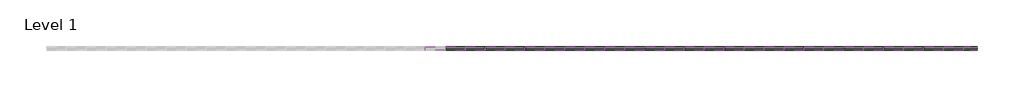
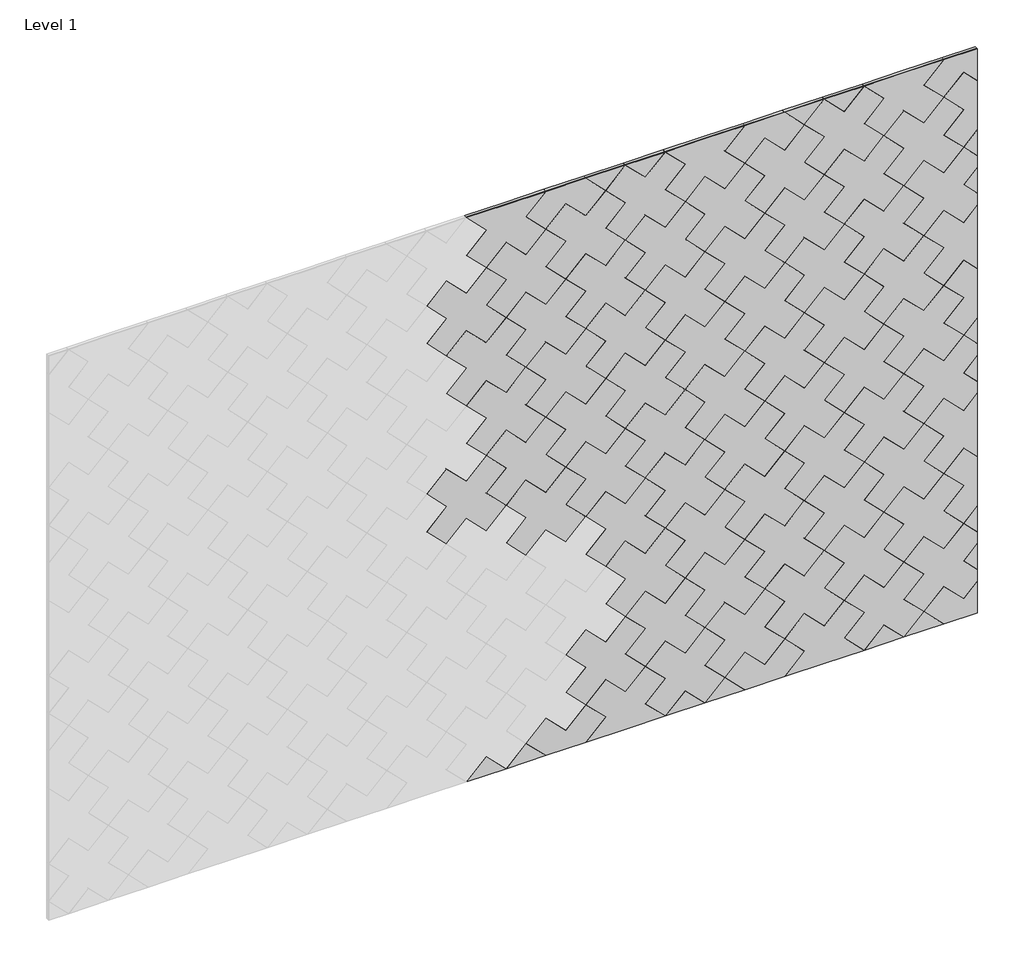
# One storey, part 2 of 2: 84 proxies.
"""IFC4 building model written with IfcOpenShell, lengths in millimetres."""

from ifc_helpers import new_model, si_unit, origin, place, context, project, spatial, transform, mapped, element, save
from components import plus_block_6a39ef65, plus_block_d2276059, plus_block_fb93f7b3, plus_block_9b29f26b, plus_block_1aacb4cb, plus_block_92bfb5da, plus_block_34edbe92, plus_block_94719e22, plus_block_7d1ee7ed, plus_block_b4ba28bf, plus_block_45ecfcac, plus_block_e310b0f0, plus_block_a1df5cec

model = new_model("IFC4")

# Units and contexts
model_context = context("Model", 3, world=origin())
ifc_project = project(units=[si_unit("LENGTHUNIT", "METRE", prefix="MILLI")], contexts=[model_context])

# Site, building, storey
site = spatial("IfcSite", under=ifc_project)
building = spatial("IfcBuilding", under=site)
storey = spatial("IfcBuildingStorey", under=building, Name="Level 1", Elevation=0.0)

# Proxies
placement = place(None, origin())
plus_block_shape = plus_block_6a39ef65(model_context)
element("IfcBuildingElementProxy", 1, Name="FilzFelt_Plus_Block : Plus Block", ObjectType="FilzFelt_Plus_Block : Plus Block", at=placement, inside=storey, context=model_context, shape_type="MappedRepresentation", body=[
    mapped(plus_block_shape, transform((21846.1946745, -17477.9339335, -163.8964022), x_axis=(0.7071067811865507, 0.0, -0.7071067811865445), y_axis=(0.7071067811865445, 0.0, 0.7071067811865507), z_axis=(0.0, -1.0, 0.0))),
])
element("IfcBuildingElementProxy", 2, Name="FilzFelt_Plus_Block : Plus Block", ObjectType="FilzFelt_Plus_Block : Plus Block", at=placement, inside=storey, context=model_context, shape_type="MappedRepresentation", body=[
    mapped(plus_block_shape, transform((21055.4135909, -17477.9339335, 770.6630603), x_axis=(0.7071067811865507, 0.0, -0.7071067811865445), y_axis=(0.7071067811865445, 0.0, 0.7071067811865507), z_axis=(0.0, -1.0, 0.0))),
])
element("IfcBuildingElementProxy", 3, Name="FilzFelt_Plus_Block : Plus Block", ObjectType="FilzFelt_Plus_Block : Plus Block", at=placement, inside=storey, context=model_context, shape_type="MappedRepresentation", body=[
    mapped(plus_block_shape, transform((21342.9703486, -17477.9339335, 626.8846814), x_axis=(0.7071067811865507, 0.0, -0.7071067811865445), y_axis=(0.7071067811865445, 0.0, 0.7071067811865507), z_axis=(0.0, -1.0, 0.0))),
])
element("IfcBuildingElementProxy", 4, Name="FilzFelt_Plus_Block : Plus Block", ObjectType="FilzFelt_Plus_Block : Plus Block", at=placement, inside=storey, context=model_context, shape_type="MappedRepresentation", body=[
    mapped(plus_block_shape, transform((21271.0811591, -17477.9339335, 842.5522497), x_axis=(0.7071067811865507, 0.0, -0.7071067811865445), y_axis=(0.7071067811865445, 0.0, 0.7071067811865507), z_axis=(0.0, -1.0, 0.0))),
])
element("IfcBuildingElementProxy", 5, Name="FilzFelt_Plus_Block : Plus Block", ObjectType="FilzFelt_Plus_Block : Plus Block", at=placement, inside=storey, context=model_context, shape_type="MappedRepresentation", body=[
    mapped(plus_block_shape, transform((21199.1919697, -17477.9339335, 1058.219818), x_axis=(0.7071067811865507, 0.0, -0.7071067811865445), y_axis=(0.7071067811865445, 0.0, 0.7071067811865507), z_axis=(0.0, -1.0, 0.0))),
])
element("IfcBuildingElementProxy", 6, Name="FilzFelt_Plus_Block : Plus Block", ObjectType="FilzFelt_Plus_Block : Plus Block", at=placement, inside=storey, context=model_context, shape_type="MappedRepresentation", body=[
    mapped(plus_block_shape, transform((21486.7487274, -17477.9339335, 914.4414391), x_axis=(0.7071067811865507, 0.0, -0.7071067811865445), y_axis=(0.7071067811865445, 0.0, 0.7071067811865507), z_axis=(0.0, -1.0, 0.0))),
])
element("IfcBuildingElementProxy", 7, Name="FilzFelt_Plus_Block : Plus Block", ObjectType="FilzFelt_Plus_Block : Plus Block", at=placement, inside=storey, context=model_context, shape_type="MappedRepresentation", body=[
    mapped(plus_block_shape, transform((21774.3054851, -17477.9339335, 770.6630603), x_axis=(0.7071067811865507, 0.0, -0.7071067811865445), y_axis=(0.7071067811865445, 0.0, 0.7071067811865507), z_axis=(0.0, -1.0, 0.0))),
])
element("IfcBuildingElementProxy", 8, Name="FilzFelt_Plus_Block : Plus Block", ObjectType="FilzFelt_Plus_Block : Plus Block", at=placement, inside=storey, context=model_context, shape_type="MappedRepresentation", body=[
    mapped(plus_block_shape, transform((22277.529811, -17477.9339335, -20.1180233), x_axis=(0.7071067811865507, 0.0, -0.7071067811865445), y_axis=(0.7071067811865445, 0.0, 0.7071067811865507), z_axis=(0.0, -1.0, 0.0))),
])
element("IfcBuildingElementProxy", 9, Name="FilzFelt_Plus_Block : Plus Block", ObjectType="FilzFelt_Plus_Block : Plus Block", at=placement, inside=storey, context=model_context, shape_type="MappedRepresentation", body=[
    mapped(plus_block_shape, transform((21702.4162957, -17477.9339335, 986.3306285), x_axis=(0.7071067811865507, 0.0, -0.7071067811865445), y_axis=(0.7071067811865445, 0.0, 0.7071067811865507), z_axis=(0.0, -1.0, 0.0))),
])
element("IfcBuildingElementProxy", 10, Name="FilzFelt_Plus_Block : Plus Block", ObjectType="FilzFelt_Plus_Block : Plus Block", at=placement, inside=storey, context=model_context, shape_type="MappedRepresentation", body=[
    mapped(plus_block_shape, transform((21630.5271062, -17477.9339335, 1201.9981968), x_axis=(0.7071067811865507, 0.0, -0.7071067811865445), y_axis=(0.7071067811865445, 0.0, 0.7071067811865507), z_axis=(0.0, -1.0, 0.0))),
])
element("IfcBuildingElementProxy", 11, Name="FilzFelt_Plus_Block : Plus Block", ObjectType="FilzFelt_Plus_Block : Plus Block", at=placement, inside=storey, context=model_context, shape_type="MappedRepresentation", body=[
    mapped(plus_block_shape, transform((21918.0838639, -17477.9339335, 1058.219818), x_axis=(0.7071067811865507, 0.0, -0.7071067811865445), y_axis=(0.7071067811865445, 0.0, 0.7071067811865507), z_axis=(0.0, -1.0, 0.0))),
])
element("IfcBuildingElementProxy", 12, Name="FilzFelt_Plus_Block : Plus Block", ObjectType="FilzFelt_Plus_Block : Plus Block", at=placement, inside=storey, context=model_context, shape_type="MappedRepresentation", body=[
    mapped(plus_block_shape, transform((22061.8622428, -17477.9339335, 1345.7765757), x_axis=(0.7071067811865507, 0.0, -0.7071067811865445), y_axis=(0.7071067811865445, 0.0, 0.7071067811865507), z_axis=(0.0, -1.0, 0.0))),
])
element("IfcBuildingElementProxy", 13, Name="FilzFelt_Plus_Block : Plus Block", ObjectType="FilzFelt_Plus_Block : Plus Block", at=placement, inside=storey, context=model_context, shape_type="MappedRepresentation", body=[
    mapped(plus_block_shape, transform((22133.7514322, -17477.9339335, 1130.1090074), x_axis=(0.7071067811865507, 0.0, -0.7071067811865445), y_axis=(0.7071067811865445, 0.0, 0.7071067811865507), z_axis=(0.0, -1.0, 0.0))),
])
element("IfcBuildingElementProxy", 14, Name="FilzFelt_Plus_Block : Plus Block", ObjectType="FilzFelt_Plus_Block : Plus Block", at=placement, inside=storey, context=model_context, shape_type="MappedRepresentation", body=[
    mapped(plus_block_shape, transform((22205.6406216, -17477.9339335, 914.4414391), x_axis=(0.7071067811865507, 0.0, -0.7071067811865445), y_axis=(0.7071067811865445, 0.0, 0.7071067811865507), z_axis=(0.0, -1.0, 0.0))),
])
element("IfcBuildingElementProxy", 15, Name="FilzFelt_Plus_Block : Plus Block", ObjectType="FilzFelt_Plus_Block : Plus Block", at=placement, inside=storey, context=model_context, shape_type="MappedRepresentation", body=[
    mapped(plus_block_shape, transform((22565.0865687, -17477.9339335, -163.8964022), x_axis=(0.7071067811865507, 0.0, -0.7071067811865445), y_axis=(0.7071067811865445, 0.0, 0.7071067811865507), z_axis=(0.0, -1.0, 0.0))),
])
element("IfcBuildingElementProxy", 16, Name="FilzFelt_Plus_Block : Plus Block", ObjectType="FilzFelt_Plus_Block : Plus Block", at=placement, inside=storey, context=model_context, shape_type="MappedRepresentation", body=[
    mapped(plus_block_shape, transform((22349.4190005, -17477.9339335, 1201.9981968), x_axis=(0.7071067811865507, 0.0, -0.7071067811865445), y_axis=(0.7071067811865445, 0.0, 0.7071067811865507), z_axis=(0.0, -1.0, 0.0))),
])
element("IfcBuildingElementProxy", 17, Name="FilzFelt_Plus_Block : Plus Block", ObjectType="FilzFelt_Plus_Block : Plus Block", at=placement, inside=storey, context=model_context, shape_type="MappedRepresentation", body=[
    mapped(plus_block_shape, transform((22708.8649476, -17477.9339335, 123.6603555), x_axis=(0.7071067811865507, 0.0, -0.7071067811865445), y_axis=(0.7071067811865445, 0.0, 0.7071067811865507), z_axis=(0.0, -1.0, 0.0))),
])
element("IfcBuildingElementProxy", 18, Name="FilzFelt_Plus_Block : Plus Block", ObjectType="FilzFelt_Plus_Block : Plus Block", at=placement, inside=storey, context=model_context, shape_type="MappedRepresentation", body=[
    mapped(plus_block_shape, transform((22636.9757581, -17477.9339335, 1058.219818), x_axis=(0.7071067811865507, 0.0, -0.7071067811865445), y_axis=(0.7071067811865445, 0.0, 0.7071067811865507), z_axis=(0.0, -1.0, 0.0))),
])
element("IfcBuildingElementProxy", 19, Name="FilzFelt_Plus_Block : Plus Block", ObjectType="FilzFelt_Plus_Block : Plus Block", at=placement, inside=storey, context=model_context, shape_type="MappedRepresentation", body=[
    mapped(plus_block_shape, transform((22565.0865687, -17477.9339335, 1273.8873862), x_axis=(0.7071067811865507, 0.0, -0.7071067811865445), y_axis=(0.7071067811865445, 0.0, 0.7071067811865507), z_axis=(0.0, -1.0, 0.0))),
])
element("IfcBuildingElementProxy", 20, Name="FilzFelt_Plus_Block : Plus Block", ObjectType="FilzFelt_Plus_Block : Plus Block", at=placement, inside=storey, context=model_context, shape_type="MappedRepresentation", body=[
    mapped(plus_block_shape, transform((22493.1973793, -17477.9339335, 1489.5549545), x_axis=(0.7071067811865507, 0.0, -0.7071067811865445), y_axis=(0.7071067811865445, 0.0, 0.7071067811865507), z_axis=(0.0, -1.0, 0.0))),
])
plus_block_2_shape = plus_block_d2276059(model_context)
element("IfcBuildingElementProxy", 21, Name="FilzFelt_Plus_Block : Plus Block", ObjectType="FilzFelt_Plus_Block : Plus Block", at=placement, inside=storey, context=model_context, shape_type="MappedRepresentation", body=[
    mapped(plus_block_2_shape, transform((21414.859538, -17477.9339335, -307.674781), x_axis=(0.7071067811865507, 0.0, -0.7071067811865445), y_axis=(0.7071067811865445, 0.0, 0.7071067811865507), z_axis=(0.0, -1.0, 0.0))),
])
element("IfcBuildingElementProxy", 22, Name="FilzFelt_Plus_Block : Plus Block", ObjectType="FilzFelt_Plus_Block : Plus Block", at=placement, inside=storey, context=model_context, shape_type="MappedRepresentation", body=[
    mapped(plus_block_2_shape, transform((22133.7514322, -17477.9339335, -307.674781), x_axis=(0.7071067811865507, 0.0, -0.7071067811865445), y_axis=(0.7071067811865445, 0.0, 0.7071067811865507), z_axis=(0.0, -1.0, 0.0))),
])
plus_block_3_shape = plus_block_fb93f7b3(model_context)
element("IfcBuildingElementProxy", 23, Name="FilzFelt_Plus_Block : Plus Block", ObjectType="FilzFelt_Plus_Block : Plus Block", at=placement, inside=storey, context=model_context, shape_type="MappedRepresentation", body=[
    mapped(plus_block_3_shape, transform((21918.0838639, -17477.9339335, -379.5639704), x_axis=(0.7071067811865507, 0.0, -0.7071067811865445), y_axis=(0.7071067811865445, 0.0, 0.7071067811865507), z_axis=(0.0, -1.0, 0.0))),
])
element("IfcBuildingElementProxy", 24, Name="FilzFelt_Plus_Block : Plus Block", ObjectType="FilzFelt_Plus_Block : Plus Block", at=placement, inside=storey, context=model_context, shape_type="MappedRepresentation", body=[
    mapped(plus_block_3_shape, transform((22636.9757581, -17477.9339335, -379.5639704), x_axis=(0.7071067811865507, 0.0, -0.7071067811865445), y_axis=(0.7071067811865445, 0.0, 0.7071067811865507), z_axis=(0.0, -1.0, 0.0))),
])
plus_block_4_shape = plus_block_9b29f26b(model_context)
element("IfcBuildingElementProxy", 25, Name="FilzFelt_Plus_Block : Plus Block", ObjectType="FilzFelt_Plus_Block : Plus Block", at=placement, inside=storey, context=model_context, shape_type="MappedRepresentation", body=[
    mapped(plus_block_4_shape, transform((22349.4190005, -17477.9339335, -235.7855916), x_axis=(0.7071067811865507, 0.0, -0.7071067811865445), y_axis=(0.7071067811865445, 0.0, 0.7071067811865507), z_axis=(0.0, -1.0, 0.0))),
])
plus_block_5_shape = plus_block_1aacb4cb(model_context)
element("IfcBuildingElementProxy", 26, Name="FilzFelt_Plus_Block : Plus Block", ObjectType="FilzFelt_Plus_Block : Plus Block", at=placement, inside=storey, context=model_context, shape_type="MappedRepresentation", body=[
    mapped(plus_block_5_shape, transform((22780.754137, -17477.9339335, -92.0072128), x_axis=(0.7071067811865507, 0.0, -0.7071067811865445), y_axis=(0.7071067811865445, 0.0, 0.7071067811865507), z_axis=(0.0, -1.0, 0.0))),
])
element("IfcBuildingElementProxy", 27, Name="FilzFelt_Plus_Block : Plus Block", ObjectType="FilzFelt_Plus_Block : Plus Block", at=placement, inside=storey, context=model_context, shape_type="MappedRepresentation", body=[
    mapped(plus_block_5_shape, transform((22780.754137, -17477.9339335, 1345.7765757), x_axis=(0.7071067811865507, 0.0, -0.7071067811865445), y_axis=(0.7071067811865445, 0.0, 0.7071067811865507), z_axis=(0.0, -1.0, 0.0))),
])
plus_block_6_shape = plus_block_92bfb5da(model_context)
element("IfcBuildingElementProxy", 28, Name="FilzFelt_Plus_Block : Plus Block", ObjectType="FilzFelt_Plus_Block : Plus Block", at=placement, inside=storey, context=model_context, shape_type="MappedRepresentation", body=[
    mapped(plus_block_6_shape, transform((22852.6433264, -17477.9339335, -307.674781), x_axis=(0.7071067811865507, 0.0, -0.7071067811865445), y_axis=(0.7071067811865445, 0.0, 0.7071067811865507), z_axis=(0.0, -1.0, 0.0))),
])
plus_block_7_shape = plus_block_34edbe92(model_context)
element("IfcBuildingElementProxy", 29, Name="FilzFelt_Plus_Block : Plus Block", ObjectType="FilzFelt_Plus_Block : Plus Block", at=placement, inside=storey, context=model_context, shape_type="MappedRepresentation", body=[
    mapped(plus_block_7_shape, transform((22996.4217052, -17477.9339335, -20.1180233), x_axis=(0.7071067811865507, 0.0, -0.7071067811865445), y_axis=(0.7071067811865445, 0.0, 0.7071067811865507), z_axis=(0.0, -1.0, 0.0))),
])
element("IfcBuildingElementProxy", 30, Name="FilzFelt_Plus_Block : Plus Block", ObjectType="FilzFelt_Plus_Block : Plus Block", at=placement, inside=storey, context=model_context, shape_type="MappedRepresentation", body=[
    mapped(plus_block_7_shape, transform((22996.4217052, -17477.9339335, 1417.6657651), x_axis=(0.7071067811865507, 0.0, -0.7071067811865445), y_axis=(0.7071067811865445, 0.0, 0.7071067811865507), z_axis=(0.0, -1.0, 0.0))),
])
plus_block_8_shape = plus_block_94719e22(model_context)
element("IfcBuildingElementProxy", 31, Name="FilzFelt_Plus_Block : Plus Block", ObjectType="FilzFelt_Plus_Block : Plus Block", at=placement, inside=storey, context=model_context, shape_type="MappedRepresentation", body=[
    mapped(plus_block_8_shape, transform((22924.5325158, -17477.9339335, 1633.3333333), x_axis=(0.7071067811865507, 0.0, -0.7071067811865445), y_axis=(0.7071067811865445, 0.0, 0.7071067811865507), z_axis=(0.0, -1.0, 0.0))),
])
element("IfcBuildingElementProxy", 32, Name="FilzFelt_Plus_Block : Plus Block", ObjectType="FilzFelt_Plus_Block : Plus Block", at=placement, inside=storey, context=model_context, shape_type="MappedRepresentation", body=[
    mapped(plus_block_shape, transform((21702.4162957, -17477.9339335, 267.4387343), x_axis=(0.7071067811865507, 0.0, -0.7071067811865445), y_axis=(0.7071067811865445, 0.0, 0.7071067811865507), z_axis=(0.0, -1.0, 0.0))),
])
element("IfcBuildingElementProxy", 33, Name="FilzFelt_Plus_Block : Plus Block", ObjectType="FilzFelt_Plus_Block : Plus Block", at=placement, inside=storey, context=model_context, shape_type="MappedRepresentation", body=[
    mapped(plus_block_shape, transform((21055.4135909, -17477.9339335, 1489.5549545), x_axis=(0.7071067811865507, 0.0, -0.7071067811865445), y_axis=(0.7071067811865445, 0.0, 0.7071067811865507), z_axis=(0.0, -1.0, 0.0))),
])
element("IfcBuildingElementProxy", 34, Name="FilzFelt_Plus_Block : Plus Block", ObjectType="FilzFelt_Plus_Block : Plus Block", at=placement, inside=storey, context=model_context, shape_type="MappedRepresentation", body=[
    mapped(plus_block_shape, transform((21558.6379168, -17477.9339335, 698.7738709), x_axis=(0.7071067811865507, 0.0, -0.7071067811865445), y_axis=(0.7071067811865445, 0.0, 0.7071067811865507), z_axis=(0.0, -1.0, 0.0))),
])
element("IfcBuildingElementProxy", 35, Name="FilzFelt_Plus_Block : Plus Block", ObjectType="FilzFelt_Plus_Block : Plus Block", at=placement, inside=storey, context=model_context, shape_type="MappedRepresentation", body=[
    mapped(plus_block_shape, transform((21630.5271062, -17477.9339335, 483.1063026), x_axis=(0.7071067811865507, 0.0, -0.7071067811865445), y_axis=(0.7071067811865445, 0.0, 0.7071067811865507), z_axis=(0.0, -1.0, 0.0))),
])
element("IfcBuildingElementProxy", 36, Name="FilzFelt_Plus_Block : Plus Block", ObjectType="FilzFelt_Plus_Block : Plus Block", at=placement, inside=storey, context=model_context, shape_type="MappedRepresentation", body=[
    mapped(plus_block_shape, transform((21846.1946745, -17477.9339335, 554.995492), x_axis=(0.7071067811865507, 0.0, -0.7071067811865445), y_axis=(0.7071067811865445, 0.0, 0.7071067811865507), z_axis=(0.0, -1.0, 0.0))),
])
element("IfcBuildingElementProxy", 37, Name="FilzFelt_Plus_Block : Plus Block", ObjectType="FilzFelt_Plus_Block : Plus Block", at=placement, inside=storey, context=model_context, shape_type="MappedRepresentation", body=[
    mapped(plus_block_shape, transform((22133.7514322, -17477.9339335, 411.2171132), x_axis=(0.7071067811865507, 0.0, -0.7071067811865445), y_axis=(0.7071067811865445, 0.0, 0.7071067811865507), z_axis=(0.0, -1.0, 0.0))),
])
element("IfcBuildingElementProxy", 38, Name="FilzFelt_Plus_Block : Plus Block", ObjectType="FilzFelt_Plus_Block : Plus Block", at=placement, inside=storey, context=model_context, shape_type="MappedRepresentation", body=[
    mapped(plus_block_shape, transform((22061.8622428, -17477.9339335, 626.8846814), x_axis=(0.7071067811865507, 0.0, -0.7071067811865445), y_axis=(0.7071067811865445, 0.0, 0.7071067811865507), z_axis=(0.0, -1.0, 0.0))),
])
element("IfcBuildingElementProxy", 39, Name="FilzFelt_Plus_Block : Plus Block", ObjectType="FilzFelt_Plus_Block : Plus Block", at=placement, inside=storey, context=model_context, shape_type="MappedRepresentation", body=[
    mapped(plus_block_shape, transform((21989.9730533, -17477.9339335, 842.5522497), x_axis=(0.7071067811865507, 0.0, -0.7071067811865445), y_axis=(0.7071067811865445, 0.0, 0.7071067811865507), z_axis=(0.0, -1.0, 0.0))),
])
element("IfcBuildingElementProxy", 40, Name="FilzFelt_Plus_Block : Plus Block", ObjectType="FilzFelt_Plus_Block : Plus Block", at=placement, inside=storey, context=model_context, shape_type="MappedRepresentation", body=[
    mapped(plus_block_shape, transform((21486.7487274, -17477.9339335, 1633.3333333), x_axis=(0.7071067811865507, 0.0, -0.7071067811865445), y_axis=(0.7071067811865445, 0.0, 0.7071067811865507), z_axis=(0.0, -1.0, 0.0))),
])
element("IfcBuildingElementProxy", 41, Name="FilzFelt_Plus_Block : Plus Block", ObjectType="FilzFelt_Plus_Block : Plus Block", at=placement, inside=storey, context=model_context, shape_type="MappedRepresentation", body=[
    mapped(plus_block_shape, transform((22277.529811, -17477.9339335, 698.7738709), x_axis=(0.7071067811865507, 0.0, -0.7071067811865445), y_axis=(0.7071067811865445, 0.0, 0.7071067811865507), z_axis=(0.0, -1.0, 0.0))),
])
element("IfcBuildingElementProxy", 42, Name="FilzFelt_Plus_Block : Plus Block", ObjectType="FilzFelt_Plus_Block : Plus Block", at=placement, inside=storey, context=model_context, shape_type="MappedRepresentation", body=[
    mapped(plus_block_shape, transform((22421.3081899, -17477.9339335, 986.3306285), x_axis=(0.7071067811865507, 0.0, -0.7071067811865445), y_axis=(0.7071067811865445, 0.0, 0.7071067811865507), z_axis=(0.0, -1.0, 0.0))),
])
element("IfcBuildingElementProxy", 43, Name="FilzFelt_Plus_Block : Plus Block", ObjectType="FilzFelt_Plus_Block : Plus Block", at=placement, inside=storey, context=model_context, shape_type="MappedRepresentation", body=[
    mapped(plus_block_shape, transform((22493.1973793, -17477.9339335, 770.6630603), x_axis=(0.7071067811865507, 0.0, -0.7071067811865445), y_axis=(0.7071067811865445, 0.0, 0.7071067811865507), z_axis=(0.0, -1.0, 0.0))),
])
element("IfcBuildingElementProxy", 44, Name="FilzFelt_Plus_Block : Plus Block", ObjectType="FilzFelt_Plus_Block : Plus Block", at=placement, inside=storey, context=model_context, shape_type="MappedRepresentation", body=[
    mapped(plus_block_shape, transform((22565.0865687, -17477.9339335, 554.995492), x_axis=(0.7071067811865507, 0.0, -0.7071067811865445), y_axis=(0.7071067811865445, 0.0, 0.7071067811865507), z_axis=(0.0, -1.0, 0.0))),
])
element("IfcBuildingElementProxy", 45, Name="FilzFelt_Plus_Block : Plus Block", ObjectType="FilzFelt_Plus_Block : Plus Block", at=placement, inside=storey, context=model_context, shape_type="MappedRepresentation", body=[
    mapped(plus_block_shape, transform((22708.8649476, -17477.9339335, 842.5522497), x_axis=(0.7071067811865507, 0.0, -0.7071067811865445), y_axis=(0.7071067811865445, 0.0, 0.7071067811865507), z_axis=(0.0, -1.0, 0.0))),
])
element("IfcBuildingElementProxy", 46, Name="FilzFelt_Plus_Block : Plus Block", ObjectType="FilzFelt_Plus_Block : Plus Block", at=placement, inside=storey, context=model_context, shape_type="MappedRepresentation", body=[
    mapped(plus_block_8_shape, transform((22924.5325158, -17477.9339335, 914.4414391), x_axis=(0.7071067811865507, 0.0, -0.7071067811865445), y_axis=(0.7071067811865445, 0.0, 0.7071067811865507), z_axis=(0.0, -1.0, 0.0))),
])
element("IfcBuildingElementProxy", 47, Name="FilzFelt_Plus_Block : Plus Block", ObjectType="FilzFelt_Plus_Block : Plus Block", at=placement, inside=storey, context=model_context, shape_type="MappedRepresentation", body=[
    mapped(plus_block_7_shape, transform((22996.4217052, -17477.9339335, 698.7738709), x_axis=(0.7071067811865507, 0.0, -0.7071067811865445), y_axis=(0.7071067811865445, 0.0, 0.7071067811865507), z_axis=(0.0, -1.0, 0.0))),
])
plus_block_9_shape = plus_block_7d1ee7ed(model_context)
element("IfcBuildingElementProxy", 48, Name="FilzFelt_Plus_Block : Plus Block", ObjectType="FilzFelt_Plus_Block : Plus Block", at=placement, inside=storey, context=model_context, shape_type="MappedRepresentation", body=[
    mapped(plus_block_9_shape, transform((22852.6433264, -17477.9339335, 1130.1090074), x_axis=(0.7071067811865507, 0.0, -0.7071067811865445), y_axis=(0.7071067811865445, 0.0, 0.7071067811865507), z_axis=(0.0, -1.0, 0.0))),
])
element("IfcBuildingElementProxy", 49, Name="FilzFelt_Plus_Block : Plus Block", ObjectType="FilzFelt_Plus_Block : Plus Block", at=placement, inside=storey, context=model_context, shape_type="MappedRepresentation", body=[
    mapped(plus_block_4_shape, transform((21630.5271062, -17477.9339335, -235.7855916), x_axis=(0.7071067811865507, 0.0, -0.7071067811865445), y_axis=(0.7071067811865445, 0.0, 0.7071067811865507), z_axis=(0.0, -1.0, 0.0))),
])
element("IfcBuildingElementProxy", 50, Name="FilzFelt_Plus_Block : Plus Block", ObjectType="FilzFelt_Plus_Block : Plus Block", at=placement, inside=storey, context=model_context, shape_type="MappedRepresentation", body=[
    mapped(plus_block_shape, transform((21558.6379168, -17477.9339335, -20.1180233), x_axis=(0.7071067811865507, 0.0, -0.7071067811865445), y_axis=(0.7071067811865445, 0.0, 0.7071067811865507), z_axis=(0.0, -1.0, 0.0))),
])
element("IfcBuildingElementProxy", 51, Name="FilzFelt_Plus_Block : Plus Block", ObjectType="FilzFelt_Plus_Block : Plus Block", at=placement, inside=storey, context=model_context, shape_type="MappedRepresentation", body=[
    mapped(plus_block_shape, transform((21774.3054851, -17477.9339335, 51.7711661), x_axis=(0.7071067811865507, 0.0, -0.7071067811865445), y_axis=(0.7071067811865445, 0.0, 0.7071067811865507), z_axis=(0.0, -1.0, 0.0))),
])
element("IfcBuildingElementProxy", 52, Name="FilzFelt_Plus_Block : Plus Block", ObjectType="FilzFelt_Plus_Block : Plus Block", at=placement, inside=storey, context=model_context, shape_type="MappedRepresentation", body=[
    mapped(plus_block_shape, transform((21127.3027803, -17477.9339335, 1273.8873862), x_axis=(0.7071067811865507, 0.0, -0.7071067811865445), y_axis=(0.7071067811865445, 0.0, 0.7071067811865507), z_axis=(0.0, -1.0, 0.0))),
])
element("IfcBuildingElementProxy", 53, Name="FilzFelt_Plus_Block : Plus Block", ObjectType="FilzFelt_Plus_Block : Plus Block", at=placement, inside=storey, context=model_context, shape_type="MappedRepresentation", body=[
    mapped(plus_block_shape, transform((21271.0811591, -17477.9339335, 1561.4441439), x_axis=(0.7071067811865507, 0.0, -0.7071067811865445), y_axis=(0.7071067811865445, 0.0, 0.7071067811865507), z_axis=(0.0, -1.0, 0.0))),
])
element("IfcBuildingElementProxy", 54, Name="FilzFelt_Plus_Block : Plus Block", ObjectType="FilzFelt_Plus_Block : Plus Block", at=placement, inside=storey, context=model_context, shape_type="MappedRepresentation", body=[
    mapped(plus_block_shape, transform((21342.9703486, -17477.9339335, 1345.7765757), x_axis=(0.7071067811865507, 0.0, -0.7071067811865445), y_axis=(0.7071067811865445, 0.0, 0.7071067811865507), z_axis=(0.0, -1.0, 0.0))),
])
element("IfcBuildingElementProxy", 55, Name="FilzFelt_Plus_Block : Plus Block", ObjectType="FilzFelt_Plus_Block : Plus Block", at=placement, inside=storey, context=model_context, shape_type="MappedRepresentation", body=[
    mapped(plus_block_shape, transform((21414.859538, -17477.9339335, 1130.1090074), x_axis=(0.7071067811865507, 0.0, -0.7071067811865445), y_axis=(0.7071067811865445, 0.0, 0.7071067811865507), z_axis=(0.0, -1.0, 0.0))),
])
element("IfcBuildingElementProxy", 56, Name="FilzFelt_Plus_Block : Plus Block", ObjectType="FilzFelt_Plus_Block : Plus Block", at=placement, inside=storey, context=model_context, shape_type="MappedRepresentation", body=[
    mapped(plus_block_shape, transform((21918.0838639, -17477.9339335, 339.3279238), x_axis=(0.7071067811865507, 0.0, -0.7071067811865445), y_axis=(0.7071067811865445, 0.0, 0.7071067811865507), z_axis=(0.0, -1.0, 0.0))),
])
element("IfcBuildingElementProxy", 57, Name="FilzFelt_Plus_Block : Plus Block", ObjectType="FilzFelt_Plus_Block : Plus Block", at=placement, inside=storey, context=model_context, shape_type="MappedRepresentation", body=[
    mapped(plus_block_shape, transform((21989.9730533, -17477.9339335, 123.6603555), x_axis=(0.7071067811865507, 0.0, -0.7071067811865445), y_axis=(0.7071067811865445, 0.0, 0.7071067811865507), z_axis=(0.0, -1.0, 0.0))),
])
element("IfcBuildingElementProxy", 58, Name="FilzFelt_Plus_Block : Plus Block", ObjectType="FilzFelt_Plus_Block : Plus Block", at=placement, inside=storey, context=model_context, shape_type="MappedRepresentation", body=[
    mapped(plus_block_shape, transform((22061.8622428, -17477.9339335, -92.0072128), x_axis=(0.7071067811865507, 0.0, -0.7071067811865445), y_axis=(0.7071067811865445, 0.0, 0.7071067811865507), z_axis=(0.0, -1.0, 0.0))),
])
element("IfcBuildingElementProxy", 59, Name="FilzFelt_Plus_Block : Plus Block", ObjectType="FilzFelt_Plus_Block : Plus Block", at=placement, inside=storey, context=model_context, shape_type="MappedRepresentation", body=[
    mapped(plus_block_shape, transform((22205.6406216, -17477.9339335, 195.5495449), x_axis=(0.7071067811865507, 0.0, -0.7071067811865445), y_axis=(0.7071067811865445, 0.0, 0.7071067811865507), z_axis=(0.0, -1.0, 0.0))),
])
element("IfcBuildingElementProxy", 60, Name="FilzFelt_Plus_Block : Plus Block", ObjectType="FilzFelt_Plus_Block : Plus Block", at=placement, inside=storey, context=model_context, shape_type="MappedRepresentation", body=[
    mapped(plus_block_shape, transform((21558.6379168, -17477.9339335, 1417.6657651), x_axis=(0.7071067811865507, 0.0, -0.7071067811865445), y_axis=(0.7071067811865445, 0.0, 0.7071067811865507), z_axis=(0.0, -1.0, 0.0))),
])
element("IfcBuildingElementProxy", 61, Name="FilzFelt_Plus_Block : Plus Block", ObjectType="FilzFelt_Plus_Block : Plus Block", at=placement, inside=storey, context=model_context, shape_type="MappedRepresentation", body=[
    mapped(plus_block_shape, transform((21702.4162957, -17477.9339335, 1705.2225228), x_axis=(0.7071067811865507, 0.0, -0.7071067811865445), y_axis=(0.7071067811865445, 0.0, 0.7071067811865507), z_axis=(0.0, -1.0, 0.0))),
])
element("IfcBuildingElementProxy", 62, Name="FilzFelt_Plus_Block : Plus Block", ObjectType="FilzFelt_Plus_Block : Plus Block", at=placement, inside=storey, context=model_context, shape_type="MappedRepresentation", body=[
    mapped(plus_block_shape, transform((21774.3054851, -17477.9339335, 1489.5549545), x_axis=(0.7071067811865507, 0.0, -0.7071067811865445), y_axis=(0.7071067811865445, 0.0, 0.7071067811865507), z_axis=(0.0, -1.0, 0.0))),
])
element("IfcBuildingElementProxy", 63, Name="FilzFelt_Plus_Block : Plus Block", ObjectType="FilzFelt_Plus_Block : Plus Block", at=placement, inside=storey, context=model_context, shape_type="MappedRepresentation", body=[
    mapped(plus_block_shape, transform((21846.1946745, -17477.9339335, 1273.8873862), x_axis=(0.7071067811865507, 0.0, -0.7071067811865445), y_axis=(0.7071067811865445, 0.0, 0.7071067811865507), z_axis=(0.0, -1.0, 0.0))),
])
element("IfcBuildingElementProxy", 64, Name="FilzFelt_Plus_Block : Plus Block", ObjectType="FilzFelt_Plus_Block : Plus Block", at=placement, inside=storey, context=model_context, shape_type="MappedRepresentation", body=[
    mapped(plus_block_shape, transform((21989.9730533, -17477.9339335, 1561.4441439), x_axis=(0.7071067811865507, 0.0, -0.7071067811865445), y_axis=(0.7071067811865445, 0.0, 0.7071067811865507), z_axis=(0.0, -1.0, 0.0))),
])
element("IfcBuildingElementProxy", 65, Name="FilzFelt_Plus_Block : Plus Block", ObjectType="FilzFelt_Plus_Block : Plus Block", at=placement, inside=storey, context=model_context, shape_type="MappedRepresentation", body=[
    mapped(plus_block_shape, transform((22349.4190005, -17477.9339335, 483.1063026), x_axis=(0.7071067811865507, 0.0, -0.7071067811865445), y_axis=(0.7071067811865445, 0.0, 0.7071067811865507), z_axis=(0.0, -1.0, 0.0))),
])
element("IfcBuildingElementProxy", 66, Name="FilzFelt_Plus_Block : Plus Block", ObjectType="FilzFelt_Plus_Block : Plus Block", at=placement, inside=storey, context=model_context, shape_type="MappedRepresentation", body=[
    mapped(plus_block_shape, transform((22421.3081899, -17477.9339335, 267.4387343), x_axis=(0.7071067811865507, 0.0, -0.7071067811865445), y_axis=(0.7071067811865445, 0.0, 0.7071067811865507), z_axis=(0.0, -1.0, 0.0))),
])
element("IfcBuildingElementProxy", 67, Name="FilzFelt_Plus_Block : Plus Block", ObjectType="FilzFelt_Plus_Block : Plus Block", at=placement, inside=storey, context=model_context, shape_type="MappedRepresentation", body=[
    mapped(plus_block_shape, transform((22493.1973793, -17477.9339335, 51.7711661), x_axis=(0.7071067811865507, 0.0, -0.7071067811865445), y_axis=(0.7071067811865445, 0.0, 0.7071067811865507), z_axis=(0.0, -1.0, 0.0))),
])
element("IfcBuildingElementProxy", 68, Name="FilzFelt_Plus_Block : Plus Block", ObjectType="FilzFelt_Plus_Block : Plus Block", at=placement, inside=storey, context=model_context, shape_type="MappedRepresentation", body=[
    mapped(plus_block_shape, transform((22205.6406216, -17477.9339335, 1633.3333333), x_axis=(0.7071067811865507, 0.0, -0.7071067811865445), y_axis=(0.7071067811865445, 0.0, 0.7071067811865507), z_axis=(0.0, -1.0, 0.0))),
])
element("IfcBuildingElementProxy", 69, Name="FilzFelt_Plus_Block : Plus Block", ObjectType="FilzFelt_Plus_Block : Plus Block", at=placement, inside=storey, context=model_context, shape_type="MappedRepresentation", body=[
    mapped(plus_block_shape, transform((22277.529811, -17477.9339335, 1417.6657651), x_axis=(0.7071067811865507, 0.0, -0.7071067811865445), y_axis=(0.7071067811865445, 0.0, 0.7071067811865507), z_axis=(0.0, -1.0, 0.0))),
])
element("IfcBuildingElementProxy", 70, Name="FilzFelt_Plus_Block : Plus Block", ObjectType="FilzFelt_Plus_Block : Plus Block", at=placement, inside=storey, context=model_context, shape_type="MappedRepresentation", body=[
    mapped(plus_block_shape, transform((22636.9757581, -17477.9339335, 339.3279238), x_axis=(0.7071067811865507, 0.0, -0.7071067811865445), y_axis=(0.7071067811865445, 0.0, 0.7071067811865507), z_axis=(0.0, -1.0, 0.0))),
])
element("IfcBuildingElementProxy", 71, Name="FilzFelt_Plus_Block : Plus Block", ObjectType="FilzFelt_Plus_Block : Plus Block", at=placement, inside=storey, context=model_context, shape_type="MappedRepresentation", body=[
    mapped(plus_block_shape, transform((22421.3081899, -17477.9339335, 1705.2225228), x_axis=(0.7071067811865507, 0.0, -0.7071067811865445), y_axis=(0.7071067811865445, 0.0, 0.7071067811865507), z_axis=(0.0, -1.0, 0.0))),
])
element("IfcBuildingElementProxy", 72, Name="FilzFelt_Plus_Block : Plus Block", ObjectType="FilzFelt_Plus_Block : Plus Block", at=placement, inside=storey, context=model_context, shape_type="MappedRepresentation", body=[
    mapped(plus_block_shape, transform((22708.8649476, -17477.9339335, 1561.4441439), x_axis=(0.7071067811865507, 0.0, -0.7071067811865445), y_axis=(0.7071067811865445, 0.0, 0.7071067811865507), z_axis=(0.0, -1.0, 0.0))),
])
element("IfcBuildingElementProxy", 73, Name="FilzFelt_Plus_Block : Plus Block", ObjectType="FilzFelt_Plus_Block : Plus Block", at=placement, inside=storey, context=model_context, shape_type="MappedRepresentation", body=[
    mapped(plus_block_3_shape, transform((21199.1919697, -17477.9339335, -379.5639704), x_axis=(0.7071067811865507, 0.0, -0.7071067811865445), y_axis=(0.7071067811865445, 0.0, 0.7071067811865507), z_axis=(0.0, -1.0, 0.0))),
])
element("IfcBuildingElementProxy", 74, Name="FilzFelt_Plus_Block : Plus Block", ObjectType="FilzFelt_Plus_Block : Plus Block", at=placement, inside=storey, context=model_context, shape_type="MappedRepresentation", body=[
    mapped(plus_block_5_shape, transform((22780.754137, -17477.9339335, 626.8846814), x_axis=(0.7071067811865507, 0.0, -0.7071067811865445), y_axis=(0.7071067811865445, 0.0, 0.7071067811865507), z_axis=(0.0, -1.0, 0.0))),
])
element("IfcBuildingElementProxy", 75, Name="FilzFelt_Plus_Block : Plus Block", ObjectType="FilzFelt_Plus_Block : Plus Block", at=placement, inside=storey, context=model_context, shape_type="MappedRepresentation", body=[
    mapped(plus_block_9_shape, transform((22852.6433264, -17477.9339335, 411.2171132), x_axis=(0.7071067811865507, 0.0, -0.7071067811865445), y_axis=(0.7071067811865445, 0.0, 0.7071067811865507), z_axis=(0.0, -1.0, 0.0))),
])
element("IfcBuildingElementProxy", 76, Name="FilzFelt_Plus_Block : Plus Block", ObjectType="FilzFelt_Plus_Block : Plus Block", at=placement, inside=storey, context=model_context, shape_type="MappedRepresentation", body=[
    mapped(plus_block_8_shape, transform((22924.5325158, -17477.9339335, 195.5495449), x_axis=(0.7071067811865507, 0.0, -0.7071067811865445), y_axis=(0.7071067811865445, 0.0, 0.7071067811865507), z_axis=(0.0, -1.0, 0.0))),
])
plus_block_10_shape = plus_block_b4ba28bf(model_context)
element("IfcBuildingElementProxy", 77, Name="FilzFelt_Plus_Block : Plus Block", ObjectType="FilzFelt_Plus_Block : Plus Block", at=placement, inside=storey, context=model_context, shape_type="MappedRepresentation", body=[
    mapped(plus_block_10_shape, transform((21199.1919697, -17477.9339335, 1777.1117122), x_axis=(0.7071067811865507, 0.0, -0.7071067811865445), y_axis=(0.7071067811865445, 0.0, 0.7071067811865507), z_axis=(0.0, -1.0, 0.0))),
])
element("IfcBuildingElementProxy", 78, Name="FilzFelt_Plus_Block : Plus Block", ObjectType="FilzFelt_Plus_Block : Plus Block", at=placement, inside=storey, context=model_context, shape_type="MappedRepresentation", body=[
    mapped(plus_block_10_shape, transform((21918.0838639, -17477.9339335, 1777.1117122), x_axis=(0.7071067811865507, 0.0, -0.7071067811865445), y_axis=(0.7071067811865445, 0.0, 0.7071067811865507), z_axis=(0.0, -1.0, 0.0))),
])
plus_block_11_shape = plus_block_45ecfcac(model_context)
element("IfcBuildingElementProxy", 79, Name="FilzFelt_Plus_Block : Plus Block", ObjectType="FilzFelt_Plus_Block : Plus Block", at=placement, inside=storey, context=model_context, shape_type="MappedRepresentation", body=[
    mapped(plus_block_11_shape, transform((21630.5271062, -17477.9339335, 1920.890091), x_axis=(0.7071067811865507, 0.0, -0.7071067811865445), y_axis=(0.7071067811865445, 0.0, 0.7071067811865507), z_axis=(0.0, -1.0, 0.0))),
])
element("IfcBuildingElementProxy", 80, Name="FilzFelt_Plus_Block : Plus Block", ObjectType="FilzFelt_Plus_Block : Plus Block", at=placement, inside=storey, context=model_context, shape_type="MappedRepresentation", body=[
    mapped(plus_block_11_shape, transform((22349.4190005, -17477.9339335, 1920.890091), x_axis=(0.7071067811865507, 0.0, -0.7071067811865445), y_axis=(0.7071067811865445, 0.0, 0.7071067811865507), z_axis=(0.0, -1.0, 0.0))),
])
plus_block_12_shape = plus_block_e310b0f0(model_context)
element("IfcBuildingElementProxy", 81, Name="FilzFelt_Plus_Block : Plus Block", ObjectType="FilzFelt_Plus_Block : Plus Block", at=placement, inside=storey, context=model_context, shape_type="MappedRepresentation", body=[
    mapped(plus_block_12_shape, transform((21414.859538, -17477.9339335, 1849.0009016), x_axis=(0.7071067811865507, 0.0, -0.7071067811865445), y_axis=(0.7071067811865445, 0.0, 0.7071067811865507), z_axis=(0.0, -1.0, 0.0))),
])
element("IfcBuildingElementProxy", 82, Name="FilzFelt_Plus_Block : Plus Block", ObjectType="FilzFelt_Plus_Block : Plus Block", at=placement, inside=storey, context=model_context, shape_type="MappedRepresentation", body=[
    mapped(plus_block_12_shape, transform((22133.7514322, -17477.9339335, 1849.0009016), x_axis=(0.7071067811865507, 0.0, -0.7071067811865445), y_axis=(0.7071067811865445, 0.0, 0.7071067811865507), z_axis=(0.0, -1.0, 0.0))),
])
element("IfcBuildingElementProxy", 83, Name="FilzFelt_Plus_Block : Plus Block", ObjectType="FilzFelt_Plus_Block : Plus Block", at=placement, inside=storey, context=model_context, shape_type="MappedRepresentation", body=[
    mapped(plus_block_10_shape, transform((22636.9757581, -17477.9339335, 1777.1117122), x_axis=(0.7071067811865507, 0.0, -0.7071067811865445), y_axis=(0.7071067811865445, 0.0, 0.7071067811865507), z_axis=(0.0, -1.0, 0.0))),
])
plus_block_13_shape = plus_block_a1df5cec(model_context)
element("IfcBuildingElementProxy", 84, Name="FilzFelt_Plus_Block : Plus Block", ObjectType="FilzFelt_Plus_Block : Plus Block", at=placement, inside=storey, context=model_context, shape_type="MappedRepresentation", body=[
    mapped(plus_block_13_shape, transform((22852.6433264, -17477.9339335, 1849.0009016), x_axis=(0.7071067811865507, 0.0, -0.7071067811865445), y_axis=(0.7071067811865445, 0.0, 0.7071067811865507), z_axis=(0.0, -1.0, 0.0))),
])

save(model, "model.ifc")
